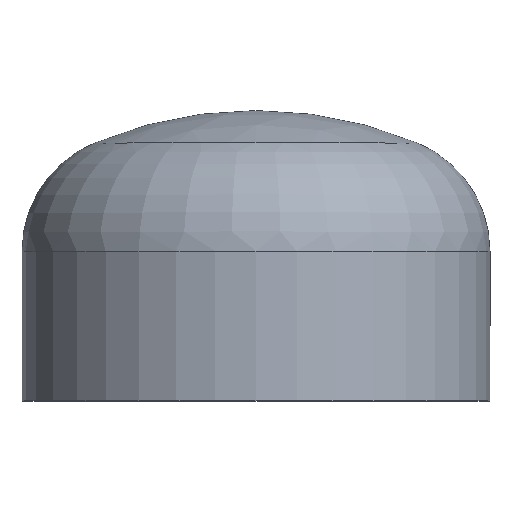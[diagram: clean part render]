
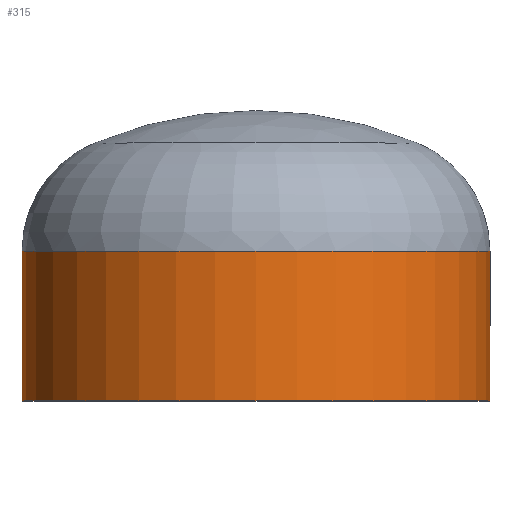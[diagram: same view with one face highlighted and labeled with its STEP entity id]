
A CAD part, top view. The second image highlights one B-rep face of the part: STEP entity #315.
In plain terms, the highlighted cylindrical face has radius 109.55 mm (diameter 219.1 mm), a partial arc.
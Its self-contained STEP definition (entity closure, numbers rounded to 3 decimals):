
#6 = EDGE_LOOP ( 'NONE', ( #117, #118, #17, #11 ) ) ;
#9 = AXIS2_PLACEMENT_3D ( 'NONE', #145, #141, #183 ) ;
#10 = CYLINDRICAL_SURFACE ( 'NONE', #9, 109.55 ) ;
#11 = ORIENTED_EDGE ( 'NONE', *, *, #358, .F. ) ;
#12 = VERTEX_POINT ( 'NONE', #301 ) ;
#17 = ORIENTED_EDGE ( 'NONE', *, *, #362, .F. ) ;
#18 = AXIS2_PLACEMENT_3D ( 'NONE', #252, #409, #275 ) ;
#26 = VERTEX_POINT ( 'NONE', #299 ) ;
#35 = FACE_OUTER_BOUND ( 'NONE', #6, .T. ) ;
#53 = VERTEX_POINT ( 'NONE', #365 ) ;
#94 = VERTEX_POINT ( 'NONE', #238 ) ;
#117 = ORIENTED_EDGE ( 'NONE', *, *, #128, .T. ) ;
#118 = ORIENTED_EDGE ( 'NONE', *, *, #386, .T. ) ;
#119 = AXIS2_PLACEMENT_3D ( 'NONE', #321, #200, #213 ) ;
#128 = EDGE_CURVE ( 'NONE', #26, #12, #218, .T. ) ;
#136 = VECTOR ( 'NONE', #269, 1000. ) ;
#141 = DIRECTION ( 'NONE',  ( 0., -1., 0. ) ) ;
#145 = CARTESIAN_POINT ( 'NONE',  ( 0., 0., 0. ) ) ;
#156 = DIRECTION ( 'NONE',  ( 0., -1., 0. ) ) ;
#165 = VECTOR ( 'NONE', #156, 1000. ) ;
#183 = DIRECTION ( 'NONE',  ( 1., 0., 0. ) ) ;
#200 = DIRECTION ( 'NONE',  ( 0., -1., 0. ) ) ;
#207 = LINE ( 'NONE', #405, #136 ) ;
#213 = DIRECTION ( 'NONE',  ( 1., 0., 0. ) ) ;
#218 = CIRCLE ( 'NONE', #119, 109.55 ) ;
#221 = CIRCLE ( 'NONE', #18, 109.55 ) ;
#238 = CARTESIAN_POINT ( 'NONE',  ( 109.55, 0., 0. ) ) ;
#239 = CARTESIAN_POINT ( 'NONE',  ( 109.55, 0., 0. ) ) ;
#252 = CARTESIAN_POINT ( 'NONE',  ( 0., 0., 0. ) ) ;
#269 = DIRECTION ( 'NONE',  ( 0., -1., 0. ) ) ;
#275 = DIRECTION ( 'NONE',  ( 1., 0., 0. ) ) ;
#281 = LINE ( 'NONE', #239, #165 ) ;
#299 = CARTESIAN_POINT ( 'NONE',  ( 109.55, 70., 0. ) ) ;
#301 = CARTESIAN_POINT ( 'NONE',  ( -109.55, 70., 0. ) ) ;
#315 = ADVANCED_FACE ( 'NONE', ( #35 ), #10, .T. ) ;
#321 = CARTESIAN_POINT ( 'NONE',  ( 0., 70., 0. ) ) ;
#358 = EDGE_CURVE ( 'NONE', #26, #94, #281, .T. ) ;
#362 = EDGE_CURVE ( 'NONE', #94, #53, #221, .T. ) ;
#365 = CARTESIAN_POINT ( 'NONE',  ( -109.55, 0., 0. ) ) ;
#386 = EDGE_CURVE ( 'NONE', #12, #53, #207, .T. ) ;
#405 = CARTESIAN_POINT ( 'NONE',  ( -109.55, 0., 0. ) ) ;
#409 = DIRECTION ( 'NONE',  ( 0., -1., 0. ) ) ;
